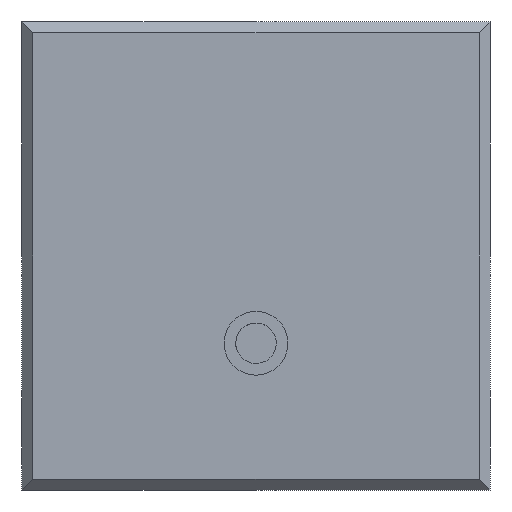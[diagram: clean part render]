
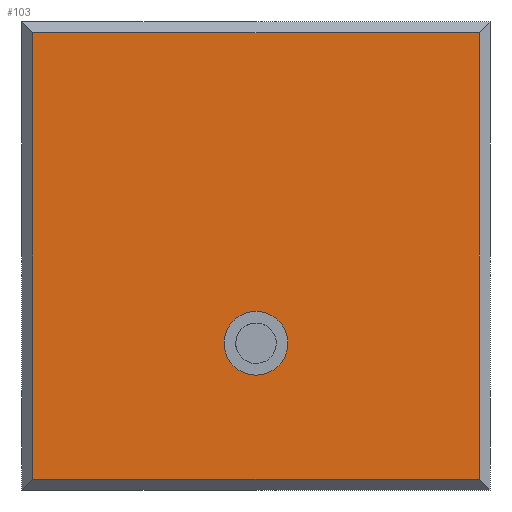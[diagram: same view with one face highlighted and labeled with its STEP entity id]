
A CAD part, left-side view. The second image highlights one B-rep face of the part: STEP entity #103.
In plain terms, the highlighted planar face has unit normal (-1, 0, 0).
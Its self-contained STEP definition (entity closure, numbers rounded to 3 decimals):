
#103=ADVANCED_FACE('',(#228,#229),#230,.F.);
#228=FACE_OUTER_BOUND('',#431,.T.);
#229=FACE_BOUND('',#432,.T.);
#230=PLANE('',#433);
#431=EDGE_LOOP('',(#781,#782,#783,#784));
#432=EDGE_LOOP('',(#785,#786));
#433=AXIS2_PLACEMENT_3D('',#787,#788,#789);
#781=ORIENTED_EDGE('',*,*,#1409,.F.);
#782=ORIENTED_EDGE('',*,*,#1410,.F.);
#783=ORIENTED_EDGE('',*,*,#1411,.F.);
#784=ORIENTED_EDGE('',*,*,#1412,.F.);
#785=ORIENTED_EDGE('',*,*,#1384,.T.);
#786=ORIENTED_EDGE('',*,*,#1394,.T.);
#787=CARTESIAN_POINT('',(-32.5,0.,0.));
#788=DIRECTION('',(1.0,0.0,0.0));
#789=DIRECTION('',(0.0,1.0,0.0));
#1384=EDGE_CURVE('',#1674,#1671,#1675,.T.);
#1394=EDGE_CURVE('',#1671,#1674,#1687,.T.);
#1409=EDGE_CURVE('',#1710,#1711,#1712,.T.);
#1410=EDGE_CURVE('',#1713,#1710,#1714,.T.);
#1411=EDGE_CURVE('',#1715,#1713,#1716,.T.);
#1412=EDGE_CURVE('',#1711,#1715,#1717,.T.);
#1671=VERTEX_POINT('',#2147);
#1674=VERTEX_POINT('',#2151);
#1675=CIRCLE('',#2152,1.5);
#1687=CIRCLE('',#2200,1.5);
#1710=VERTEX_POINT('',#2263);
#1711=VERTEX_POINT('',#2264);
#1712=LINE('',#2265,#2266);
#1713=VERTEX_POINT('',#2267);
#1714=LINE('',#2268,#2269);
#1715=VERTEX_POINT('',#2270);
#1716=LINE('',#2271,#2272);
#1717=LINE('',#2273,#2274);
#2147=CARTESIAN_POINT('',(-32.5,-1.5,-4.1));
#2151=CARTESIAN_POINT('',(-32.5,1.5,-4.1));
#2152=AXIS2_PLACEMENT_3D('',#2776,#2777,#2778);
#2200=AXIS2_PLACEMENT_3D('',#2798,#2799,#2800);
#2263=CARTESIAN_POINT('',(-32.5,-10.5,-10.5));
#2264=CARTESIAN_POINT('',(-32.5,10.5,-10.5));
#2265=CARTESIAN_POINT('',(-32.5,-10.5,-10.5));
#2266=VECTOR('',#2823,21.0);
#2267=CARTESIAN_POINT('',(-32.5,-10.5,10.5));
#2268=CARTESIAN_POINT('',(-32.5,-10.5,10.5));
#2269=VECTOR('',#2824,21.0);
#2270=CARTESIAN_POINT('',(-32.5,10.5,10.5));
#2271=CARTESIAN_POINT('',(-32.5,10.5,10.5));
#2272=VECTOR('',#2825,21.0);
#2273=CARTESIAN_POINT('',(-32.5,10.5,-10.5));
#2274=VECTOR('',#2826,21.0);
#2776=CARTESIAN_POINT('',(-32.5,0.,-4.1));
#2777=DIRECTION('',(1.0,0.0,0.0));
#2778=DIRECTION('',(0.0,-1.0,0.0));
#2798=CARTESIAN_POINT('',(-32.5,0.,-4.1));
#2799=DIRECTION('',(1.0,0.0,0.0));
#2800=DIRECTION('',(0.0,-1.0,0.0));
#2823=DIRECTION('',(0.0,1.0,0.0));
#2824=DIRECTION('',(0.0,0.0,-1.0));
#2825=DIRECTION('',(0.0,-1.0,0.0));
#2826=DIRECTION('',(0.0,0.0,1.0));
